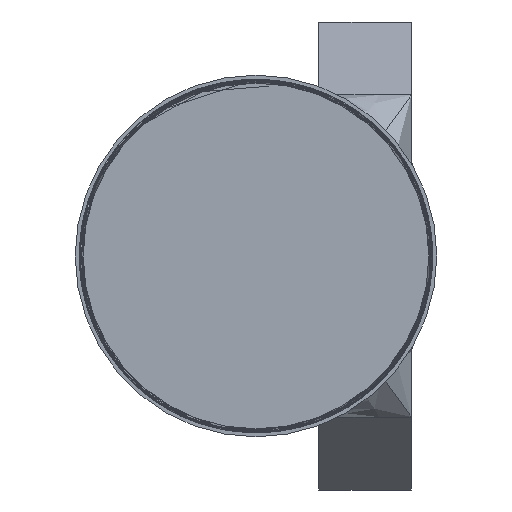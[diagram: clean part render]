
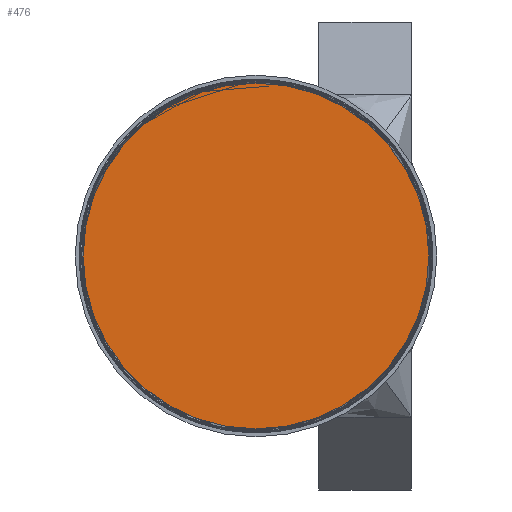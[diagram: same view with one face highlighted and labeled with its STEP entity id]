
A CAD part, left-side view. The second image highlights one B-rep face of the part: STEP entity #476.
In plain terms, the highlighted planar face has unit normal (-1, 0, 0).
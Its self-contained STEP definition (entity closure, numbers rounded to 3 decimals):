
#137=FACE_OUTER_BOUND('',#170,.T.);
#170=EDGE_LOOP('',(#413));
#188=CIRCLE('',#534,4.128);
#230=VERTEX_POINT('',#6752);
#291=EDGE_CURVE('',#230,#230,#188,.T.);
#413=ORIENTED_EDGE('',*,*,#291,.T.);
#425=PLANE('',#535);
#476=ADVANCED_FACE('',(#137),#425,.T.);
#534=AXIS2_PLACEMENT_3D('',#6754,#641,#642);
#535=AXIS2_PLACEMENT_3D('',#6755,#643,#644);
#641=DIRECTION('center_axis',(-1.,0.,0.));
#642=DIRECTION('ref_axis',(0.,-1.,0.));
#643=DIRECTION('center_axis',(-1.,0.,0.));
#644=DIRECTION('ref_axis',(0.,0.,1.));
#6752=CARTESIAN_POINT('',(0.,4.128,0.));
#6754=CARTESIAN_POINT('Origin',(0.,0.,0.));
#6755=CARTESIAN_POINT('Origin',(0.,0.,0.));
